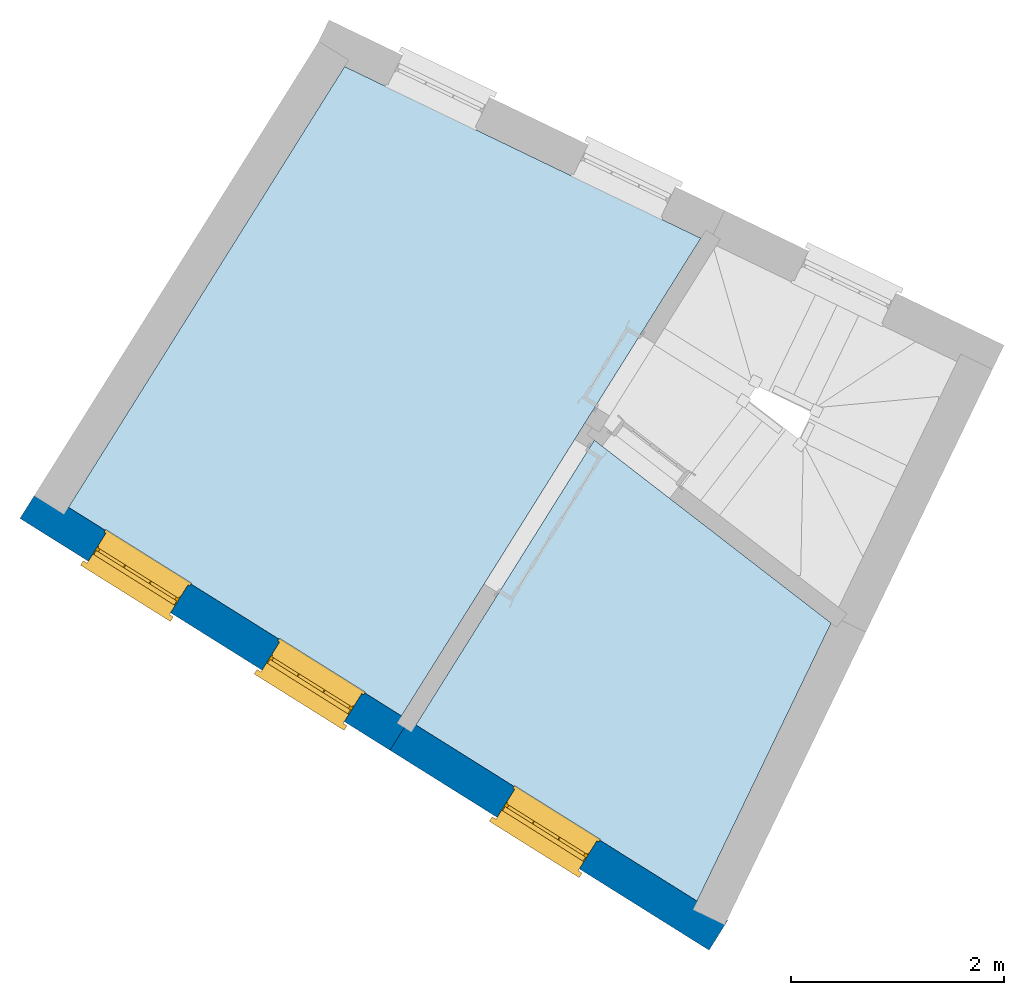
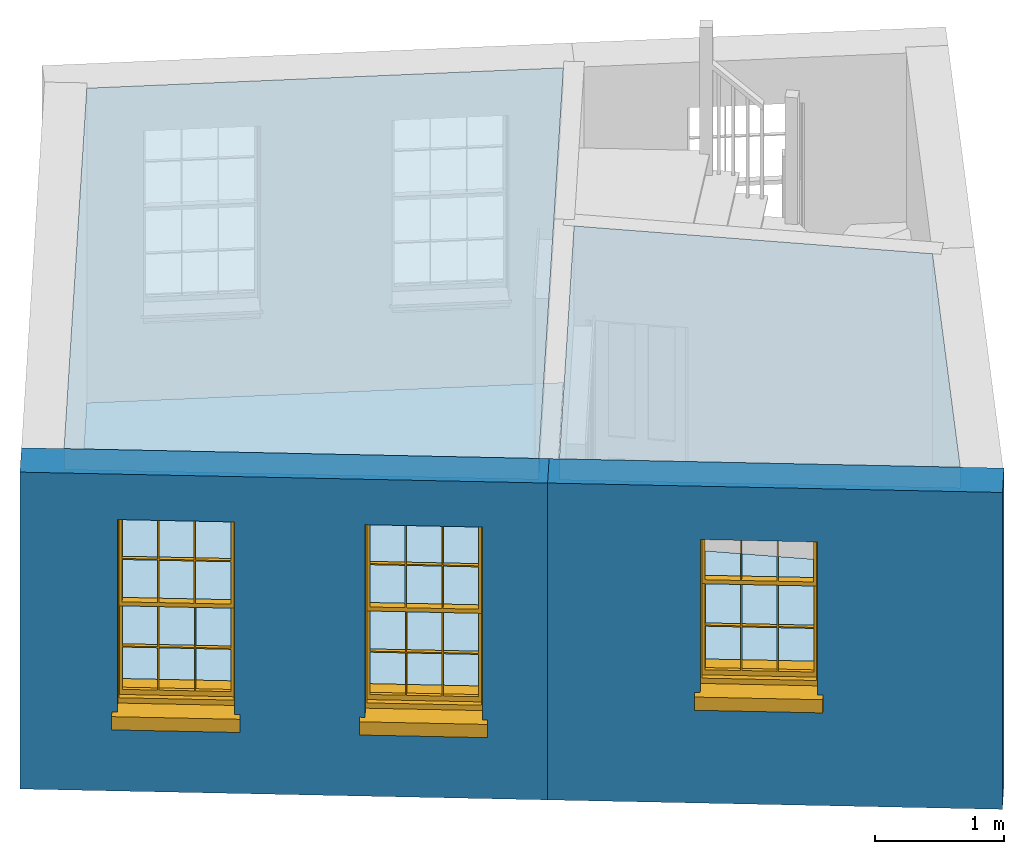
# One storey, part 1 of 4: 4 slabs, 3 windows, 2 walls, 3 openings.
"""IFC4 building model written with IfcOpenShell, lengths in metres."""

import ifcopenshell
import ifcopenshell.guid

model = None  # the IFC model being written
_history = None  # IfcOwnerHistory: only IFC2X3 demands one
_inside = {}  # id of a spatial element -> (the spatial element, [elements in it])
_under = {}  # id of a project, library or spatial element -> (it, [spatial elements below it])
_declared = {}  # id of a project -> (the project, [libraries it declares])
_typed = {}  # id of a type object -> (the type object, [elements of that type])
_made_of = {}  # id of a material, layer set ... -> (it, [elements and type objects made of it])


def new_model(schema):
    """Start an empty IFC model of exactly this schema.

    Asked for "IFC4X3", IfcOpenShell would pick the latest addendum, in which some entities
    have other attributes; the version numbers below select the first issue.
    IFC2X3 requires an IfcOwnerHistory on every rooted entity: one is made here for all.
    """
    global model, _history
    if schema == "IFC4X3":
        model = ifcopenshell.file(schema_version=(4, 3, 0, 0))
    else:
        model = ifcopenshell.file(schema=schema)
    _inside.clear()
    _under.clear()
    _declared.clear()
    _typed.clear()
    _made_of.clear()
    _history = None
    if model.schema == "IFC2X3":
        org = make("IfcOrganization", Name="unknown")
        user = make(
            "IfcPersonAndOrganization",
            ThePerson=make("IfcPerson", FamilyName="unknown"),
            TheOrganization=org,
        )
        app = make(
            "IfcApplication",
            ApplicationDeveloper=org,
            Version="unknown",
            ApplicationFullName="unknown",
            ApplicationIdentifier="unknown",
        )
        _history = make(
            "IfcOwnerHistory",
            OwningUser=user,
            OwningApplication=app,
            ChangeAction="ADDED",
            CreationDate=0,
        )
    return model


def make(cls, **values):
    """One entity of the class cls with the attributes given. An attribute that is None is left unset."""
    return model.create_entity(
        cls, **{name: value for name, value in values.items() if value is not None}
    )


def rooted(cls, **values):
    """An entity with a GlobalId (a new one), such as an element, a storey or a relation."""
    return make(cls, GlobalId=ifcopenshell.guid.new(), OwnerHistory=_history, **values)


def si_unit(unit_type, name, prefix=None):
    """IfcSIUnit, for example si_unit("LENGTHUNIT", "METRE", prefix="MILLI")."""
    return make("IfcSIUnit", UnitType=unit_type, Prefix=prefix, Name=name)


def assignment(units):
    """IfcUnitAssignment: the units of a project."""
    return None if units is None else make("IfcUnitAssignment", Units=units)


def point(xyz):
    """IfcCartesianPoint."""
    return None if xyz is None else make("IfcCartesianPoint", Coordinates=xyz)


def direction(xyz):
    """IfcDirection."""
    return None if xyz is None else make("IfcDirection", DirectionRatios=xyz)


def frame(location, z_axis=None, x_axis=None):
    """IfcAxis2Placement3D, a coordinate frame: its origin and axes. An axis left out is left unset."""
    return make(
        "IfcAxis2Placement3D",
        Location=point(location),
        Axis=direction(z_axis),
        RefDirection=direction(x_axis),
    )


def origin():
    """The frame at (0, 0, 0) with its axes left unset."""
    return frame((0.0, 0.0, 0.0))


def origin_with_axes():
    """The frame at (0, 0, 0) with the z axis (0, 0, 1) and the x axis (1, 0, 0) written out."""
    return frame((0.0, 0.0, 0.0), z_axis=(0.0, 0.0, 1.0), x_axis=(1.0, 0.0, 0.0))


def place(relative_to, where):
    """IfcLocalPlacement: puts the frame where relative to a parent placement (None: the world)."""
    return make(
        "IfcLocalPlacement", PlacementRelTo=relative_to, RelativePlacement=where
    )


def context(
    kind, dimensions, precision=None, world=None, true_north=None, identifier=None
):
    """IfcGeometricRepresentationContext, for example the 3D "Model" context."""
    return make(
        "IfcGeometricRepresentationContext",
        ContextIdentifier=identifier,
        ContextType=kind,
        CoordinateSpaceDimension=dimensions,
        Precision=precision,
        WorldCoordinateSystem=world,
        TrueNorth=true_north,
    )


def subcontext(parent, identifier, kind, view, scale=None):
    """IfcGeometricRepresentationSubContext, for example "Body" below "Model"."""
    return make(
        "IfcGeometricRepresentationSubContext",
        ContextIdentifier=identifier,
        ContextType=kind,
        ParentContext=parent,
        TargetScale=scale,
        TargetView=view,
    )


def project(units=None, contexts=None):
    """IfcProject with its units and contexts."""
    return rooted(
        "IfcProject",
        Name="project",
        RepresentationContexts=contexts,
        UnitsInContext=assignment(units),
    )


def spatial(cls, under=None, at=None, **own):
    """A site, building, storey or space (cls), placed at a placement, below another one or the project."""
    s = rooted(cls, ObjectPlacement=at, **own)
    if under is not None:
        _under.setdefault(under.id(), (under, []))[1].append(s)
    return s


def polyline(points):
    """IfcPolyline through the points."""
    return make("IfcPolyline", Points=[point(p) for p in points])


def outline(outer, holes=None, kind="AREA"):
    """IfcArbitraryClosedProfileDef: a profile drawn as a closed curve; with holes, ...WithVoids."""
    if holes is None:
        return make("IfcArbitraryClosedProfileDef", ProfileType=kind, OuterCurve=outer)
    return make(
        "IfcArbitraryProfileDefWithVoids",
        ProfileType=kind,
        OuterCurve=outer,
        InnerCurves=holes,
    )


def extrude(swept, where, along, depth):
    """IfcExtrudedAreaSolid: the profile swept, set in the frame where, extruded along a direction by depth."""
    return make(
        "IfcExtrudedAreaSolid",
        SweptArea=swept,
        Position=where,
        ExtrudedDirection=direction(along),
        Depth=depth,
    )


def faces_of(points, faces, orient=None, outer=None):
    """IfcFace entities. A face is a list of loops; a loop is a list of indices into points, from 0.

    orient and outer hold one flag for each loop. By default every Orientation is true, the
    first loop of a face is its IfcFaceOuterBound and the others are IfcFaceBound.
    """
    made = []
    for i, loops in enumerate(faces):
        bounds = []
        for j, loop in enumerate(loops):
            is_outer = j == 0 if outer is None else outer[i][j]
            bounds.append(
                make(
                    "IfcFaceOuterBound" if is_outer else "IfcFaceBound",
                    Bound=make("IfcPolyLoop", Polygon=[points[k] for k in loop]),
                    Orientation=True if orient is None else orient[i][j],
                )
            )
        made.append(make("IfcFace", Bounds=bounds))
    return made


def faceted_brep(points, faces, orient=None, outer=None, voids=None):
    """IfcFacetedBrep: a solid bounded by flat faces; with voids (closed shells), ...WithVoids."""
    shared = [point(p) for p in points]
    hull = make("IfcClosedShell", CfsFaces=faces_of(shared, faces, orient, outer))
    if voids is None:
        return make("IfcFacetedBrep", Outer=hull)
    return make(
        "IfcFacetedBrepWithVoids",
        Outer=hull,
        Voids=[
            make(cls, CfsFaces=faces_of(shared, fs, o, b)) for cls, fs, o, b in voids
        ],
    )


def shape(context_of_items, identifier, shape_type, items):
    """IfcShapeRepresentation: the items that make up one representation, for example the "Body"."""
    return make(
        "IfcShapeRepresentation",
        ContextOfItems=context_of_items,
        RepresentationIdentifier=identifier,
        RepresentationType=shape_type,
        Items=items,
    )


def source(mapping_origin, context_of_items, identifier, shape_type, items):
    """IfcRepresentationMap: a shape defined once, which mapped items show again and again."""
    return make(
        "IfcRepresentationMap",
        MappingOrigin=mapping_origin,
        MappedRepresentation=shape(context_of_items, identifier, shape_type, items),
    )


def transform(
    local_origin,
    x_axis=None,
    y_axis=None,
    z_axis=None,
    scale=None,
    scale2=None,
    scale3=None,
    uniform=True,
):
    """IfcCartesianTransformationOperator3D, or its non-uniform kind. x_axis, y_axis, z_axis: its Axis1, 2, 3."""
    if uniform:
        return make(
            "IfcCartesianTransformationOperator3D",
            Axis1=direction(x_axis),
            Axis2=direction(y_axis),
            LocalOrigin=point(local_origin),
            Scale=scale,
            Axis3=direction(z_axis),
        )
    return make(
        "IfcCartesianTransformationOperator3DnonUniform",
        Axis1=direction(x_axis),
        Axis2=direction(y_axis),
        LocalOrigin=point(local_origin),
        Scale=scale,
        Axis3=direction(z_axis),
        Scale2=scale2,
        Scale3=scale3,
    )


def mapped(mapping_source, mapping_target):
    """IfcMappedItem: shows the shape of a source again, moved by a transform."""
    return make(
        "IfcMappedItem", MappingSource=mapping_source, MappingTarget=mapping_target
    )


def material(Name=None, Category=None):
    """IfcMaterial."""
    return make("IfcMaterial", Name=Name, Category=Category)


def layer(
    of_material, thickness, ventilated=None, Name=None, Category=None, Priority=None
):
    """IfcMaterialLayer: one layer of a wall or slab, of a material (None: an air gap)."""
    return make(
        "IfcMaterialLayer",
        Material=of_material,
        LayerThickness=thickness,
        IsVentilated=ventilated,
        Name=Name,
        Category=Category,
        Priority=Priority,
    )


def layer_set(layers, Name=None):
    """IfcMaterialLayerSet."""
    return make("IfcMaterialLayerSet", MaterialLayers=layers, LayerSetName=Name)


def layer_usage(for_layer_set, set_direction, sense, offset, extent=None):
    """IfcMaterialLayerSetUsage: how a layer set lies in its element."""
    return make(
        "IfcMaterialLayerSetUsage",
        ForLayerSet=for_layer_set,
        LayerSetDirection=set_direction,
        DirectionSense=sense,
        OffsetFromReferenceLine=offset,
        ReferenceExtent=extent,
    )


def made_of(thing, what):
    """Note that an element or type object is made of a material, layer set ...; save() writes the relation."""
    if what is not None:
        _made_of.setdefault(what.id(), (what, []))[1].append(thing)
    return thing


def type_object(cls, material=None, **own):
    """A type object (cls), such as IfcWallType, which elements share."""
    return made_of(rooted(cls, **own), material)


def type_shapes(of_type, sources):
    """Give a type object the sources (RepresentationMaps) that its elements show as mapped items."""
    of_type.RepresentationMaps = sources


def element(
    cls,
    number,
    at=None,
    inside=None,
    cuts=None,
    type_object=None,
    material=None,
    context=None,
    identifier="Body",
    shape_type=None,
    held_by="IfcProductDefinitionShape",
    body=None,
    shapes=None,
    **own,
):
    """One element of the class cls, such as IfcWall. Its Tag is "e" and its number.

    at: its placement. inside: the storey or other place that contains it. cuts: it is an
    opening in that element (IfcRelVoidsElement). A single representation is given by context,
    identifier, shape_type and body (its items); several are given by shapes. held_by: the class
    of the entity that holds the representations. save() writes the other relations.
    """
    e = rooted(cls, Tag="e%d" % number, ObjectPlacement=at, **own)
    if body is not None:
        shapes = [shape(context, identifier, shape_type, body)]
    if shapes is not None:
        e.Representation = make(held_by, Representations=shapes)
    if inside is not None:
        _inside.setdefault(inside.id(), (inside, []))[1].append(e)
    if cuts is not None:
        rooted(
            "IfcRelVoidsElement", RelatingBuildingElement=cuts, RelatedOpeningElement=e
        )
    if type_object is not None:
        _typed.setdefault(type_object.id(), (type_object, []))[1].append(e)
    return made_of(e, material)


def fill(opening, filler):
    """IfcRelFillsElement: the door or window that sits in an opening."""
    return rooted(
        "IfcRelFillsElement",
        RelatingOpeningElement=opening,
        RelatedBuildingElement=filler,
    )


def aggregate(whole, parts):
    """IfcRelAggregates: a whole, such as a stair, and the parts it consists of."""
    return rooted("IfcRelAggregates", RelatingObject=whole, RelatedObjects=parts)


def save(model, path):
    """Write the relations noted so far, then the file.

    IfcRelAggregates (storeys below a building ...), IfcRelContainedInSpatialStructure (elements
    in a storey), IfcRelDefinesByType, IfcRelAssociatesMaterial and IfcRelDeclares: one each for
    every whole, place, type object, material and project.
    """
    for whole, parts in _under.values():
        aggregate(whole, parts)
    for where, things in _inside.values():
        rooted(
            "IfcRelContainedInSpatialStructure",
            RelatedElements=things,
            RelatingStructure=where,
        )
    for kind, things in _typed.values():
        rooted("IfcRelDefinesByType", RelatedObjects=things, RelatingType=kind)
    for what, things in _made_of.values():
        rooted("IfcRelAssociatesMaterial", RelatedObjects=things, RelatingMaterial=what)
    for by, libraries in _declared.values():
        rooted("IfcRelDeclares", RelatingContext=by, RelatedDefinitions=libraries)
    model.write(path)


model = new_model("IFC4")

# Units and contexts
model_context = context("Model", 3, world=origin_with_axes())
body_context = subcontext(model_context, "Body", "Model", "MODEL_VIEW")
ifc_project = project(units=[si_unit("PLANEANGLEUNIT", "RADIAN"), si_unit("MASSUNIT", "GRAM", prefix="KILO"), si_unit("FORCEUNIT", "NEWTON", prefix="KILO"), si_unit("LENGTHUNIT", "METRE"), si_unit("AREAUNIT", "SQUARE_METRE"), si_unit("VOLUMEUNIT", "CUBIC_METRE")], contexts=[model_context, model_context])

# Sites, building, storey
site_1_placement = place(None, origin_with_axes())
site_1 = spatial("IfcSite", under=ifc_project, at=site_1_placement, Name="Tamar")
site_2_placement = place(site_1_placement, origin_with_axes())
site_2 = spatial("IfcSite", under=site_1, at=site_2_placement, Name="Site plot-0", CompositionType="ELEMENT")
building_placement = place(None, origin_with_axes())
building = spatial("IfcBuilding", under=site_2, at=building_placement, Name="Building plot-0", CompositionType="ELEMENT")
storey_placement = place(None, frame((0.0, 0.0, 29.3), z_axis=(0.0, 0.0, 1.0), x_axis=(1.0, 0.0, 0.0)))
storey = spatial("IfcBuildingStorey", under=building, at=storey_placement, Name="plot-0 1", CompositionType="ELEMENT", Elevation=29.3)

# Slabs
slab_1_placement = place(storey_placement, frame((215.548879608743, 302.809732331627, 2.8)))
element("IfcSlab", 1, at=slab_1_placement, inside=storey, Name="My Slab", ObjectType="Slab", PredefinedType="FLOOR", context=body_context, shape_type="SweptSolid", body=[
    extrude(outline(polyline([(0.0, 0.0), (-2.5893741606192, -4.13272765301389), (0.533047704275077, -6.08909138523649), (3.33979561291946, -1.6094279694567), (0.0, 0.0)])), origin_with_axes(), (0.0, 0.0, 1.0), 0.2),
])
slab_2_placement = place(storey_placement, frame((215.548879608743, 302.809732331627, 0.0)))
element("IfcSlab", 2, at=slab_2_placement, inside=storey, Name="My Slab", ObjectType="Slab", PredefinedType="FLOOR", context=body_context, shape_type="SweptSolid", body=[
    extrude(outline(polyline([(0.0, 0.0), (-2.5893741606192, -4.13272765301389), (0.533047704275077, -6.08909138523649), (3.33979561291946, -1.6094279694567), (0.0, 0.0)])), origin_with_axes(), (0.0, 0.0, 1.0), 0.02),
])
slab_3_placement = place(storey_placement, frame((217.890647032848, 299.306068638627, 2.8)))
element("IfcSlab", 3, at=slab_3_placement, inside=storey, Name="My Slab", ObjectType="Slab", PredefinedType="FLOOR", context=body_context, shape_type="SweptSolid", body=[
    extrude(outline(polyline([(0.0, 0.0), (-1.67313472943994, -2.67037891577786), (0.963199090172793, -4.3221825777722), (2.2197125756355, -1.71473551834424), (0.0, 0.0)])), origin_with_axes(), (0.0, 0.0, 1.0), 0.2),
])
slab_4_placement = place(storey_placement, frame((217.890647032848, 299.306068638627, 0.0)))
element("IfcSlab", 4, at=slab_4_placement, inside=storey, Name="My Slab", ObjectType="Slab", PredefinedType="FLOOR", context=body_context, shape_type="SweptSolid", body=[
    extrude(outline(polyline([(0.0, 0.0), (-1.67313472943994, -2.67037891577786), (0.963199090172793, -4.3221825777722), (2.2197125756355, -1.71473551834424), (0.0, 0.0)])), origin_with_axes(), (0.0, 0.0, 1.0), 0.02),
])

# Wall, openings, windows
ifc_material = material(Name="Masonry")
ifc_layer = layer(ifc_material, 0.33, ventilated=False)
ifc_layer_set = layer_set([ifc_layer], Name="exterior_0.08_0.25")
ifc_layer_usage = layer_usage(ifc_layer_set, "AXIS2", "POSITIVE", -0.25)
wall_type = type_object("IfcWallType", Name="exterior_0.08_0.25", PredefinedType="SOLIDWALL", material=ifc_layer_set)
wall_1_placement = place(storey_placement, frame((212.849237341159, 298.651687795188, 0.0), z_axis=(0.0, 0.0, 1.0), x_axis=(0.847406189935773, -0.530945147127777, 0.0)))
wall_1 = element("IfcWall", 5, at=wall_1_placement, inside=storey, type_object=wall_type, material=ifc_layer_usage, Name="exterior", context=body_context, shape_type="SweptSolid", body=[
    extrude(outline(polyline([(-0.250000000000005, 0.0799999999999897), (-0.250000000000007, -0.250000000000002), (3.84468144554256, -0.250000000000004), (3.84468144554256, 0.0799999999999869), (-0.250000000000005, 0.0799999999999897)])), origin_with_axes(), (0.0, 0.0, 1.0), 3.0),
])
opening_1_placement = place(wall_1_placement, frame((0.50617036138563, 0.0, 0.75)))
opening_1 = element("IfcOpeningElement", 6, at=opening_1_placement, cuts=wall_1, Name="My Opening", ObjectType="Opening", context=body_context, shape_type="SweptSolid", body=[
    extrude(outline(polyline([(0.0, -0.26999999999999), (0.910000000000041, -0.270000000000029), (0.910000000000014, 1.09999999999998), (-2.67563748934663e-14, 1.10000000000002), (0.0, -0.26999999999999)])), origin_with_axes(), (0.0, 0.0, 1.0), 1.82),
])
opening_2_placement = place(wall_1_placement, frame((2.4285110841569, 0.0, 0.75)))
opening_2 = element("IfcOpeningElement", 7, at=opening_2_placement, cuts=wall_1, Name="My Opening", ObjectType="Opening", context=body_context, shape_type="SweptSolid", body=[
    extrude(outline(polyline([(0.0, -0.269999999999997), (0.910000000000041, -0.270000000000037), (0.910000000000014, 1.09999999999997), (-2.66453525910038e-14, 1.10000000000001), (0.0, -0.269999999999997)])), origin_with_axes(), (0.0, 0.0, 1.0), 1.82),
])
window_type_1 = type_object("IfcWindowType", Name="sash_big", PartitioningType="DOUBLE_PANEL_HORIZONTAL", PredefinedType="NOTDEFINED")
shared_shape_1 = source(origin(), body_context, "Body", "Brep", [
    faceted_brep([(0.033125, 0.145, 0.975209), (0.01, 0.145, 0.975209), (0.033125, 0.145, 1.376042), (0.876875, 0.145, 0.975209), (0.876875, 0.145, 1.376042), (0.9, 0.145, 0.975209), (0.876875, 0.145, 1.386042), (0.876875, 0.145, 1.786875), (0.9, 0.145, 1.81), (0.033125, 0.145, 1.786875), (0.033125, 0.145, 1.386042), (0.01, 0.145, 1.81), (0.876875, 0.115, 1.376042), (0.876875, 0.115, 0.975209), (0.9, 0.115, 0.937083), (0.033125, 0.115, 1.786875), (0.01, 0.115, 1.81), (0.033125, 0.115, 1.386042), (0.01, 0.115, 0.937083), (0.033125, 0.115, 0.975209), (0.033125, 0.115, 1.376042), (0.876875, 0.115, 1.786875), (0.876875, 0.115, 1.386042), (0.9, 0.115, 1.81), (0.033125, 0.145, 0.937083), (0.01, 0.145, 0.937083), (0.033125, 0.145, 0.53625), (0.876875, 0.145, 0.937083), (0.876875, 0.145, 0.53625), (0.9, 0.145, 0.937083), (0.876875, 0.145, 0.52625), (0.876875, 0.145, 0.125417), (0.9, 0.145, 0.077167), (0.033125, 0.145, 0.125417), (0.033125, 0.145, 0.52625), (0.01, 0.145, 0.077167), (-0.0425, 0.0, 0.01), (-0.0425, -0.05, 0.001667), (0.0, 0.0, 0.01), (0.9525, 0.0, 0.01), (0.91, 0.0, 0.01), (0.9525, -0.05, 0.001667), (-0.02, 0.33, 0.077167), (0.0, 0.33, 0.077167), (-0.02, 0.36, 0.077167), (0.0, 0.19, 0.077167), (0.01, 0.19, 0.077167), (0.91, 0.19, 0.077167), (0.91, 0.33, 0.077167), (0.9, 0.19, 0.077167), (0.93, 0.33, 0.077167), (0.93, 0.36, 0.077167), (0.01, 0.175, 0.975209), (0.9, 0.175, 0.975209), (0.876875, 0.175, 0.125417), (0.876875, 0.175, 0.52625), (0.9, 0.175, 0.077167), (0.876875, 0.175, 0.53625), (0.876875, 0.175, 0.937083), (0.033125, 0.175, 0.125417), (0.01, 0.175, 0.077167), (0.033125, 0.175, 0.52625), (0.033125, 0.175, 0.937083), (0.033125, 0.175, 0.53625), (-0.02, 0.33, 0.052167), (-0.02, 0.36, 0.052167), (0.93, 0.36, 0.052167), (0.93, 0.33, 0.052167), (0.91, 0.33, 0.052167), (0.0, 0.33, 0.052167), (0.91, 0.1, 0.026667), (0.0, 0.1, 0.026667), (-0.0425, -0.05, -0.123333), (0.9525, -0.05, -0.123333), (-0.0425, 0.0, -0.123333), (0.9525, 0.0, -0.123333), (0.01, 0.19, 1.81), (0.9, 0.19, 1.81), (0.0, 0.19, 1.82), (0.91, 0.19, 1.82), (0.01, 0.1, 0.077167), (0.9, 0.1, 0.077167), (0.592292, 0.145, 0.125417), (0.592292, 0.175, 0.125417), (0.317708, 0.175, 0.125417), (0.317708, 0.145, 0.125417), (0.592292, 0.145, 0.53625), (0.317708, 0.145, 0.53625), (0.317708, 0.145, 0.52625), (0.592292, 0.145, 0.52625), (0.592292, 0.175, 0.53625), (0.317708, 0.175, 0.53625), (0.592292, 0.115, 1.386042), (0.592292, 0.145, 1.386042), (0.317708, 0.145, 1.386042), (0.317708, 0.115, 1.386042), (0.317708, 0.115, 1.376042), (0.592292, 0.115, 1.376042), (0.317708, 0.145, 1.376042), (0.592292, 0.145, 1.376042), (0.602292, 0.115, 1.376042), (0.592292, 0.115, 0.975209), (0.602292, 0.115, 0.975209), (0.602292, 0.145, 0.975209), (0.592292, 0.145, 0.975209), (0.602292, 0.145, 1.376042), (0.602292, 0.175, 0.53625), (0.602292, 0.145, 0.53625), (0.317708, 0.175, 0.52625), (0.307708, 0.175, 0.125417), (0.307708, 0.175, 0.52625), (0.602292, 0.175, 0.52625), (0.602292, 0.175, 0.125417), (0.592292, 0.175, 0.52625), (0.307708, 0.175, 0.53625), (0.317708, 0.175, 0.937083), (0.307708, 0.175, 0.937083), (0.602292, 0.175, 0.937083), (0.592292, 0.175, 0.937083), (0.307708, 0.145, 0.52625), (0.307708, 0.145, 0.125417), (0.307708, 0.145, 0.53625), (0.307708, 0.145, 0.937083), (0.592292, 0.145, 0.937083), (0.317708, 0.145, 0.937083), (0.602292, 0.145, 0.937083), (0.602292, 0.145, 0.52625), (0.602292, 0.145, 0.125417), (0.307708, 0.115, 1.386042), (0.307708, 0.115, 1.376042), (0.307708, 0.115, 0.975209), (0.317708, 0.115, 0.975209), (0.317708, 0.115, 1.786875), (0.307708, 0.115, 1.786875), (0.602292, 0.115, 1.786875), (0.592292, 0.115, 1.786875), (0.602292, 0.115, 1.386042), (0.602292, 0.145, 1.386042), (0.307708, 0.145, 1.386042), (0.307708, 0.145, 1.786875), (0.317708, 0.145, 1.786875), (0.592292, 0.145, 1.786875), (0.602292, 0.145, 1.786875), (0.307708, 0.145, 1.376042), (0.317708, 0.145, 0.975209), (0.307708, 0.145, 0.975209), (0.91, 0.1, 1.82), (0.9, 0.1, 1.81), (0.01, 0.1, 1.81), (0.0, 0.1, 1.82), (0.91, 0.0, 0.0), (0.0, 0.0, 0.0), (0.91, 0.33, 0.0), (0.0, 0.33, 0.0)], [[[0, 1, 2]], [[3, 4, 5]], [[6, 7, 8]], [[9, 10, 11]], [[12, 13, 14]], [[15, 16, 17]], [[18, 19, 20]], [[21, 22, 23]], [[24, 25, 26]], [[27, 28, 29]], [[30, 31, 32]], [[33, 34, 35]], [[14, 27, 29]], [[25, 24, 18]], [[36, 37, 38]], [[39, 40, 41]], [[42, 43, 44]], [[45, 46, 43]], [[47, 48, 49]], [[50, 51, 48]], [[1, 0, 52]], [[5, 53, 3]], [[54, 55, 56]], [[57, 58, 53]], [[59, 60, 61]], [[62, 63, 52]], [[48, 43, 46, 49]], [[51, 44, 43, 48]], [[64, 42, 44, 65]], [[65, 44, 51, 66]], [[66, 51, 50, 67]], [[65, 66, 68, 69]], [[60, 56, 49, 46]], [[70, 71, 38, 40]], [[37, 41, 40, 38]], [[37, 72, 73, 41]], [[74, 75, 73, 72]], [[8, 11, 76, 77]], [[76, 78, 79, 77]], [[32, 35, 80, 81]], [[81, 80, 71, 70]], [[82, 83, 84, 85]], [[86, 87, 88, 89]], [[86, 90, 91, 87]], [[92, 93, 94, 95]], [[92, 95, 96, 97]], [[96, 98, 99, 97]], [[100, 97, 101, 102]], [[103, 104, 99, 105]], [[97, 99, 104, 101]], [[102, 103, 105, 100]], [[28, 57, 106, 107]], [[108, 84, 109, 110]], [[111, 112, 83, 113]], [[114, 110, 61, 63]], [[90, 113, 108, 91]], [[115, 91, 114, 116]], [[117, 106, 90, 118]], [[111, 106, 57, 55]], [[119, 110, 109, 120]], [[34, 61, 110, 119]], [[89, 113, 83, 82]], [[88, 108, 113, 89]], [[85, 84, 108, 88]], [[121, 114, 63, 26]], [[122, 116, 114, 121]], [[123, 118, 90, 86]], [[87, 91, 115, 124]], [[107, 106, 117, 125]], [[126, 111, 55, 30]], [[127, 112, 111, 126]], [[126, 30, 28, 107]], [[88, 119, 120, 85]], [[126, 89, 82, 127]], [[125, 123, 86, 107]], [[121, 26, 34, 119]], [[124, 122, 121, 87]], [[128, 17, 20, 129]], [[96, 129, 130, 131]], [[132, 133, 128, 95]], [[134, 135, 92, 136]], [[100, 12, 22, 136]], [[137, 6, 4, 105]], [[94, 138, 139, 140]], [[137, 93, 141, 142]], [[99, 98, 94, 93]], [[143, 2, 10, 138]], [[144, 145, 143, 98]], [[129, 143, 145, 130]], [[20, 2, 143, 129]], [[131, 144, 98, 96]], [[128, 138, 10, 17]], [[133, 139, 138, 128]], [[135, 141, 93, 92]], [[95, 94, 140, 132]], [[22, 6, 137, 136]], [[136, 137, 142, 134]], [[100, 105, 4, 12]], [[107, 86, 89, 126]], [[106, 111, 113, 90]], [[91, 108, 110, 114]], [[87, 121, 119, 88]], [[97, 100, 136, 92]], [[129, 96, 95, 128]], [[98, 143, 138, 94]], [[105, 99, 93, 137]], [[131, 101, 104, 144]], [[124, 115, 118, 123]], [[132, 140, 141, 135]], [[120, 109, 59, 33]], [[15, 9, 139, 133]], [[134, 142, 7, 21]], [[31, 54, 112, 127]], [[36, 74, 72, 37]], [[39, 41, 73, 75]], [[18, 14, 101, 131]], [[23, 16, 132, 135]], [[83, 56, 60, 84]], [[52, 53, 118, 115]], [[53, 52, 144, 104]], [[11, 8, 141, 140]], [[14, 18, 124, 123]], [[2, 1, 11, 10]], [[8, 5, 4, 6]], [[57, 53, 56, 55]], [[60, 52, 63, 61]], [[26, 25, 35, 34]], [[32, 29, 28, 30]], [[14, 23, 22, 12]], [[18, 20, 17, 16]], [[19, 0, 2, 20]], [[17, 10, 9, 15]], [[12, 4, 3, 13]], [[21, 7, 6, 22]], [[27, 58, 57, 28]], [[30, 55, 54, 31]], [[33, 59, 61, 34]], [[26, 63, 62, 24]], [[5, 8, 77, 53]], [[76, 11, 1, 52]], [[46, 45, 78, 76]], [[49, 77, 79, 47]], [[70, 146, 147, 81]], [[71, 80, 148, 149]], [[19, 130, 145, 0]], [[102, 13, 3, 103]], [[116, 122, 24, 62]], [[29, 32, 81, 14]], [[80, 35, 25, 18]], [[60, 46, 76, 52]], [[77, 49, 56, 53]], [[23, 14, 81, 147]], [[16, 148, 80, 18]], [[35, 85, 120]], [[120, 33, 35]], [[127, 82, 32]], [[32, 31, 127]], [[32, 82, 85, 35]], [[102, 101, 14]], [[14, 13, 102]], [[18, 131, 130]], [[130, 19, 18]], [[134, 21, 23]], [[23, 135, 134]], [[16, 15, 133]], [[133, 132, 16]], [[11, 140, 139]], [[139, 9, 11]], [[142, 141, 8]], [[8, 7, 142]], [[23, 147, 148, 16]], [[146, 149, 148, 147]], [[52, 115, 116]], [[116, 62, 52]], [[118, 53, 117]], [[58, 117, 53]], [[27, 125, 117, 58]], [[56, 83, 112]], [[112, 54, 56]], [[109, 84, 60]], [[60, 59, 109]], [[125, 27, 14]], [[14, 123, 125]], [[122, 124, 18]], [[18, 24, 122]], [[145, 144, 52]], [[52, 0, 145]], [[103, 3, 53]], [[53, 104, 103]], [[79, 78, 149, 146]], [[78, 45, 71, 149]], [[146, 70, 47, 79]], [[150, 75, 74, 151]], [[68, 66, 67]], [[48, 68, 67, 50]], [[69, 64, 65]], [[42, 64, 69, 43]], [[69, 68, 152, 153]], [[70, 68, 48, 47]], [[150, 152, 68, 70]], [[43, 69, 71, 45]], [[69, 153, 151, 71]], [[152, 150, 151, 153]], [[38, 151, 74, 36]], [[71, 151, 38]], [[39, 75, 150, 40]], [[40, 150, 70]]]),
])
type_shapes(window_type_1, [shared_shape_1])
window_1_placement = place(storey_placement, frame((213.134814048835, 298.154139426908, 0.75), z_axis=(0.0, 0.0, 1.0), x_axis=(0.771139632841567, -0.483160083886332, 0.0)))
window_1 = element("IfcWindow", 8, at=window_1_placement, inside=storey, type_object=window_type_1, Name="living outside window", OverallHeight=1.82, OverallWidth=0.91, context=body_context, shape_type="MappedRepresentation", body=[
    mapped(shared_shape_1, transform((0.0, 0.0, 0.0), scale=1.0)),
])
fill(opening_1, window_1)
window_2_placement = place(storey_placement, frame((214.763817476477, 297.133481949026, 0.75), z_axis=(0.0, 0.0, 1.0), x_axis=(0.771139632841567, -0.483160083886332, 0.0)))
window_2 = element("IfcWindow", 9, at=window_2_placement, inside=storey, type_object=window_type_1, Name="living outside window", OverallHeight=1.82, OverallWidth=0.91, context=body_context, shape_type="MappedRepresentation", body=[
    mapped(shared_shape_1, transform((0.0, 0.0, 0.0), scale=1.0)),
])
fill(opening_2, window_2)

# Wall, opening, window
wall_2_placement = place(storey_placement, frame((216.107244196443, 296.610372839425, 0.0), z_axis=(0.0, 0.0, 1.0), x_axis=(0.847406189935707, -0.530945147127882, 0.0)))
wall_2 = element("IfcWall", 10, at=wall_2_placement, inside=storey, type_object=wall_type, material=ifc_layer_usage, Name="exterior", context=body_context, shape_type="SweptSolid", body=[
    extrude(outline(polyline([(-1.07598238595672e-14, 0.0799999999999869), (2.83757851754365e-14, -0.250000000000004), (3.53044393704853, -0.250000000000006), (3.53044393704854, 0.0800000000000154), (-1.07598238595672e-14, 0.0799999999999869)])), origin_with_axes(), (0.0, 0.0, 1.0), 3.0),
])
opening_3_placement = place(wall_2_placement, frame((1.18522196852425, 0.0, 1.05)))
opening_3 = element("IfcOpeningElement", 11, at=opening_3_placement, cuts=wall_2, Name="My Opening", ObjectType="Opening", context=body_context, shape_type="SweptSolid", body=[
    extrude(outline(polyline([(0.0, -0.269999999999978), (0.910000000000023, -0.269999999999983), (0.910000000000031, 1.10000000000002), (7.99360577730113e-15, 1.10000000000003), (0.0, -0.269999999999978)])), origin_with_axes(), (0.0, 0.0, 1.0), 1.445),
])
window_type_2 = type_object("IfcWindowType", Name="sash_shorter", PartitioningType="DOUBLE_PANEL_HORIZONTAL", PredefinedType="NOTDEFINED")
shared_shape_2 = source(origin(), body_context, "Body", "Brep", [
    faceted_brep([(0.876875, 0.145, 0.999097), (0.876875, 0.145, 1.411875), (0.9, 0.145, 1.435), (0.033125, 0.145, 1.411875), (0.033125, 0.145, 0.999097), (0.01, 0.145, 1.435), (0.033125, 0.115, 1.411875), (0.01, 0.115, 1.435), (0.033125, 0.115, 0.999097), (0.876875, 0.115, 1.411875), (0.876875, 0.115, 0.999097), (0.9, 0.115, 1.435), (0.033125, 0.145, 0.960972), (0.01, 0.145, 0.960972), (0.033125, 0.145, 0.548195), (0.876875, 0.145, 0.960972), (0.876875, 0.145, 0.548195), (0.9, 0.145, 0.960972), (0.876875, 0.145, 0.538195), (0.876875, 0.145, 0.125417), (0.9, 0.145, 0.077167), (0.033125, 0.145, 0.125417), (0.033125, 0.145, 0.538195), (0.01, 0.145, 0.077167), (0.9, 0.115, 0.960972), (0.01, 0.115, 0.960972), (-0.0425, 0.0, 0.01), (-0.0425, -0.05, 0.001667), (0.0, 0.0, 0.01), (0.9525, 0.0, 0.01), (0.91, 0.0, 0.01), (0.9525, -0.05, 0.001667), (-0.02, 0.33, 0.077167), (0.0, 0.33, 0.077167), (-0.02, 0.36, 0.077167), (0.0, 0.19, 0.077167), (0.01, 0.19, 0.077167), (0.91, 0.19, 0.077167), (0.91, 0.33, 0.077167), (0.9, 0.19, 0.077167), (0.93, 0.33, 0.077167), (0.93, 0.36, 0.077167), (0.01, 0.145, 0.999097), (0.01, 0.175, 0.999097), (0.9, 0.145, 0.999097), (0.9, 0.175, 0.999097), (0.876875, 0.175, 0.125417), (0.876875, 0.175, 0.538195), (0.9, 0.175, 0.077167), (0.876875, 0.175, 0.548195), (0.876875, 0.175, 0.960972), (0.033125, 0.175, 0.125417), (0.01, 0.175, 0.077167), (0.033125, 0.175, 0.538195), (0.033125, 0.175, 0.960972), (0.033125, 0.175, 0.548195), (-0.02, 0.33, 0.052167), (-0.02, 0.36, 0.052167), (0.93, 0.36, 0.052167), (0.93, 0.33, 0.052167), (0.91, 0.33, 0.052167), (0.0, 0.33, 0.052167), (0.91, 0.1, 0.026667), (0.0, 0.1, 0.026667), (-0.0425, -0.05, -0.123333), (0.9525, -0.05, -0.123333), (-0.0425, 0.0, -0.123333), (0.9525, 0.0, -0.123333), (0.01, 0.19, 1.435), (0.9, 0.19, 1.435), (0.0, 0.19, 1.445), (0.91, 0.19, 1.445), (0.01, 0.1, 0.077167), (0.9, 0.1, 0.077167), (0.592292, 0.145, 0.125417), (0.592292, 0.175, 0.125417), (0.317708, 0.175, 0.125417), (0.317708, 0.145, 0.125417), (0.592292, 0.145, 0.548195), (0.317708, 0.145, 0.548195), (0.317708, 0.145, 0.538195), (0.592292, 0.145, 0.538195), (0.592292, 0.175, 0.548195), (0.317708, 0.175, 0.548195), (0.602292, 0.175, 0.548195), (0.602292, 0.145, 0.548195), (0.317708, 0.175, 0.538195), (0.307708, 0.175, 0.125417), (0.307708, 0.175, 0.538195), (0.602292, 0.175, 0.538195), (0.602292, 0.175, 0.125417), (0.592292, 0.175, 0.538195), (0.307708, 0.175, 0.548195), (0.317708, 0.175, 0.960972), (0.307708, 0.175, 0.960972), (0.602292, 0.175, 0.960972), (0.592292, 0.175, 0.960972), (0.307708, 0.145, 0.538195), (0.307708, 0.145, 0.125417), (0.307708, 0.145, 0.548195), (0.307708, 0.145, 0.960972), (0.592292, 0.145, 0.960972), (0.317708, 0.145, 0.960972), (0.602292, 0.145, 0.960972), (0.602292, 0.145, 0.538195), (0.602292, 0.145, 0.125417), (0.317708, 0.115, 1.411875), (0.307708, 0.115, 1.411875), (0.307708, 0.115, 0.999097), (0.317708, 0.115, 0.999097), (0.602292, 0.115, 1.411875), (0.592292, 0.115, 1.411875), (0.592292, 0.115, 0.999097), (0.602292, 0.115, 0.999097), (0.317708, 0.145, 0.999097), (0.307708, 0.145, 0.999097), (0.307708, 0.145, 1.411875), (0.317708, 0.145, 1.411875), (0.602292, 0.145, 0.999097), (0.592292, 0.145, 0.999097), (0.592292, 0.145, 1.411875), (0.602292, 0.145, 1.411875), (0.91, 0.1, 1.445), (0.9, 0.1, 1.435), (0.01, 0.1, 1.435), (0.0, 0.1, 1.445), (0.91, 0.0, 0.0), (0.0, 0.0, 0.0), (0.91, 0.33, 0.0), (0.0, 0.33, 0.0)], [[[0, 1, 2]], [[3, 4, 5]], [[6, 7, 8]], [[9, 10, 11]], [[12, 13, 14]], [[15, 16, 17]], [[18, 19, 20]], [[21, 22, 23]], [[24, 15, 17]], [[13, 12, 25]], [[26, 27, 28]], [[29, 30, 31]], [[32, 33, 34]], [[35, 36, 33]], [[37, 38, 39]], [[40, 41, 38]], [[42, 4, 43]], [[44, 45, 0]], [[46, 47, 48]], [[49, 50, 45]], [[51, 52, 53]], [[54, 55, 43]], [[38, 33, 36, 39]], [[41, 34, 33, 38]], [[56, 32, 34, 57]], [[57, 34, 41, 58]], [[58, 41, 40, 59]], [[57, 58, 60, 61]], [[52, 48, 39, 36]], [[62, 63, 28, 30]], [[27, 31, 30, 28]], [[27, 64, 65, 31]], [[66, 67, 65, 64]], [[2, 5, 68, 69]], [[68, 70, 71, 69]], [[20, 23, 72, 73]], [[73, 72, 63, 62]], [[74, 75, 76, 77]], [[78, 79, 80, 81]], [[78, 82, 83, 79]], [[16, 49, 84, 85]], [[86, 76, 87, 88]], [[89, 90, 75, 91]], [[92, 88, 53, 55]], [[82, 91, 86, 83]], [[93, 83, 92, 94]], [[95, 84, 82, 96]], [[89, 84, 49, 47]], [[97, 88, 87, 98]], [[22, 53, 88, 97]], [[81, 91, 75, 74]], [[80, 86, 91, 81]], [[77, 76, 86, 80]], [[99, 92, 55, 14]], [[100, 94, 92, 99]], [[101, 96, 82, 78]], [[79, 83, 93, 102]], [[85, 84, 95, 103]], [[104, 89, 47, 18]], [[105, 90, 89, 104]], [[104, 18, 16, 85]], [[80, 97, 98, 77]], [[104, 81, 74, 105]], [[103, 101, 78, 85]], [[99, 14, 22, 97]], [[102, 100, 99, 79]], [[106, 107, 108, 109]], [[110, 111, 112, 113]], [[114, 115, 116, 117]], [[118, 119, 120, 121]], [[107, 116, 115, 108]], [[111, 120, 119, 112]], [[109, 114, 117, 106]], [[113, 118, 121, 110]], [[85, 78, 81, 104]], [[84, 89, 91, 82]], [[83, 86, 88, 92]], [[79, 99, 97, 80]], [[109, 112, 119, 114]], [[102, 93, 96, 101]], [[106, 117, 120, 111]], [[98, 87, 51, 21]], [[6, 3, 116, 107]], [[110, 121, 1, 9]], [[19, 46, 90, 105]], [[26, 66, 64, 27]], [[29, 31, 65, 67]], [[25, 24, 112, 109]], [[11, 7, 106, 111]], [[75, 48, 52, 76]], [[43, 45, 96, 93]], [[45, 43, 114, 119]], [[5, 2, 120, 117]], [[24, 25, 102, 101]], [[42, 5, 4]], [[2, 44, 0]], [[49, 45, 48, 47]], [[52, 43, 55, 53]], [[14, 13, 23, 22]], [[20, 17, 16, 18]], [[24, 11, 10]], [[25, 8, 7]], [[8, 4, 3, 6]], [[9, 1, 0, 10]], [[15, 50, 49, 16]], [[18, 47, 46, 19]], [[21, 51, 53, 22]], [[14, 55, 54, 12]], [[44, 2, 69, 45]], [[68, 5, 42, 43]], [[36, 35, 70, 68]], [[39, 69, 71, 37]], [[62, 122, 123, 73]], [[63, 72, 124, 125]], [[8, 108, 115, 4]], [[113, 10, 0, 118]], [[94, 100, 12, 54]], [[17, 20, 73, 24]], [[72, 23, 13, 25]], [[52, 36, 68, 43]], [[69, 39, 48, 45]], [[11, 24, 73, 123]], [[7, 124, 72, 25]], [[23, 77, 98]], [[98, 21, 23]], [[105, 74, 20]], [[20, 19, 105]], [[20, 74, 77, 23]], [[113, 112, 24]], [[24, 10, 113]], [[25, 109, 108]], [[108, 8, 25]], [[110, 9, 11]], [[11, 111, 110]], [[7, 6, 107]], [[107, 106, 7]], [[5, 117, 116]], [[116, 3, 5]], [[121, 120, 2]], [[2, 1, 121]], [[11, 123, 124, 7]], [[122, 125, 124, 123]], [[43, 93, 94]], [[94, 54, 43]], [[96, 45, 95]], [[50, 95, 45]], [[15, 103, 95, 50]], [[48, 75, 90]], [[90, 46, 48]], [[87, 76, 52]], [[52, 51, 87]], [[103, 15, 24]], [[24, 101, 103]], [[100, 102, 25]], [[25, 12, 100]], [[115, 114, 43]], [[43, 4, 115]], [[118, 0, 45]], [[45, 119, 118]], [[71, 70, 125, 122]], [[70, 35, 63, 125]], [[122, 62, 37, 71]], [[126, 67, 66, 127]], [[60, 58, 59]], [[38, 60, 59, 40]], [[61, 56, 57]], [[32, 56, 61, 33]], [[61, 60, 128, 129]], [[62, 60, 38, 37]], [[126, 128, 60, 62]], [[33, 61, 63, 35]], [[61, 129, 127, 63]], [[128, 126, 127, 129]], [[28, 127, 66, 26]], [[63, 127, 28]], [[29, 67, 126, 30]], [[30, 126, 62]]]),
])
type_shapes(window_type_2, [shared_shape_2])
window_3_placement = place(storey_placement, frame((216.968253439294, 295.752285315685, 1.05), z_axis=(0.0, 0.0, 1.0), x_axis=(0.771139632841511, -0.483160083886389, 0.0)))
window_3 = element("IfcWindow", 12, at=window_3_placement, inside=storey, type_object=window_type_2, Name="kitchen outside window", OverallHeight=1.445, OverallWidth=0.91, context=body_context, shape_type="MappedRepresentation", body=[
    mapped(shared_shape_2, transform((0.0, 0.0, 0.0), scale=1.0)),
])
fill(opening_3, window_3)

save(model, "model.ifc")
